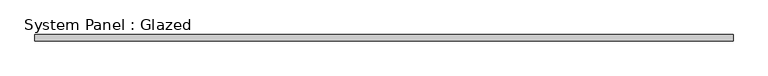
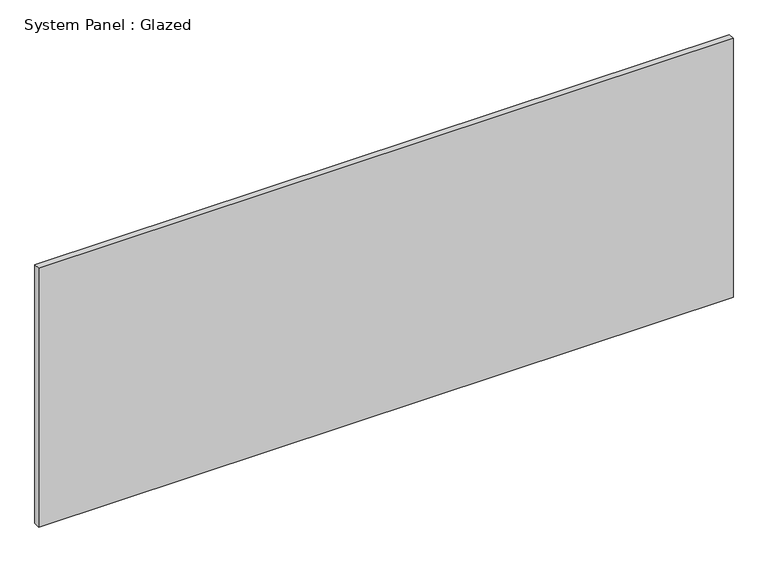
"""IFC4 building model written with IfcOpenShell, lengths in millimetres: plate geometry, System Panel : Glazed."""

from ifc_helpers import new_model, si_unit, origin, origin_with_axes, place, context, project, spatial, polyline, outline, extrude, source, transform, mapped, element, save


def system_panel_glazed_569c36ed(model_context):
    return source(origin(), model_context, "Body", "SweptSolid", [
        extrude(outline(polyline([(1395.2963125, 24.5), (-1395.2963125, 24.5), (-1395.2963125, 49.5), (1395.2963125, 49.5), (1395.2963125, 24.5)])), origin_with_axes(), (0.0, 0.0, 1.0), 1098.2453384),
    ])


if __name__ == "__main__":
    model = new_model("IFC4")
    model_context = context("Model", 3, world=origin())
    ifc_project = project(units=[si_unit("LENGTHUNIT", "METRE", prefix="MILLI")], contexts=[model_context])
    site = spatial("IfcSite", under=ifc_project)
    building = spatial("IfcBuilding", under=site)
    placement = place(None, origin())
    system_panel_glazed_shape = system_panel_glazed_569c36ed(model_context)
    element("IfcPlate", 1, ObjectType="System Panel : Glazed", at=placement, inside=building, context=model_context, shape_type="MappedRepresentation", body=[
        mapped(system_panel_glazed_shape, transform((0.0, 0.0, 0.0), x_axis=(1.0, 0.0, 0.0), y_axis=(0.0, 1.0, 0.0), z_axis=(0.0, 0.0, 1.0))),
    ])
    save(model, "model.ifc")
